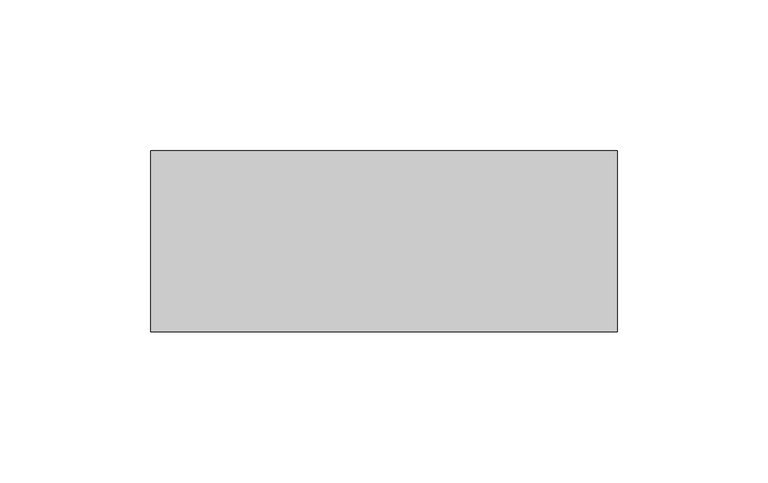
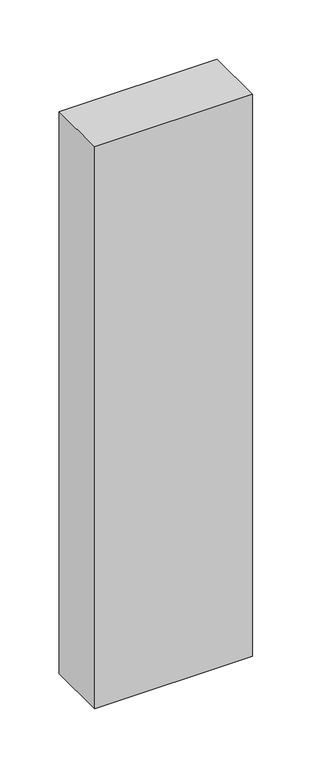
"""IFC4 building model written with IfcOpenShell, lengths in millimetres: plate geometry, Системная панель : Алюкобонд серый."""

from ifc_helpers import new_model, si_unit, origin, origin_with_axes, place, context, project, spatial, polyline, outline, extrude, source, transform, mapped, element, save


def plate_fde671d5(model_context):
    return source(origin(), model_context, "Body", "SweptSolid", [
        extrude(outline(polyline([(77.287868, -10.5), (-77.287868, -10.5), (-77.287868, 49.5), (77.287868, 49.5), (77.287868, -10.5)])), origin_with_axes(), (0.0, 0.0, 1.0), 580.0),
    ])


if __name__ == "__main__":
    model = new_model("IFC4")
    model_context = context("Model", 3, world=origin())
    ifc_project = project(units=[si_unit("LENGTHUNIT", "METRE", prefix="MILLI")], contexts=[model_context])
    site = spatial("IfcSite", under=ifc_project)
    building = spatial("IfcBuilding", under=site)
    placement = place(None, origin())
    plate_shape = plate_fde671d5(model_context)
    element("IfcPlate", 1, ObjectType="Системная панель : Алюкобонд серый", at=placement, inside=building, context=model_context, shape_type="MappedRepresentation", body=[
        mapped(plate_shape, transform((0.0, 0.0, 0.0), x_axis=(1.0, 0.0, 0.0), y_axis=(0.0, 1.0, 0.0), z_axis=(0.0, 0.0, 1.0))),
    ])
    save(model, "model.ifc")
